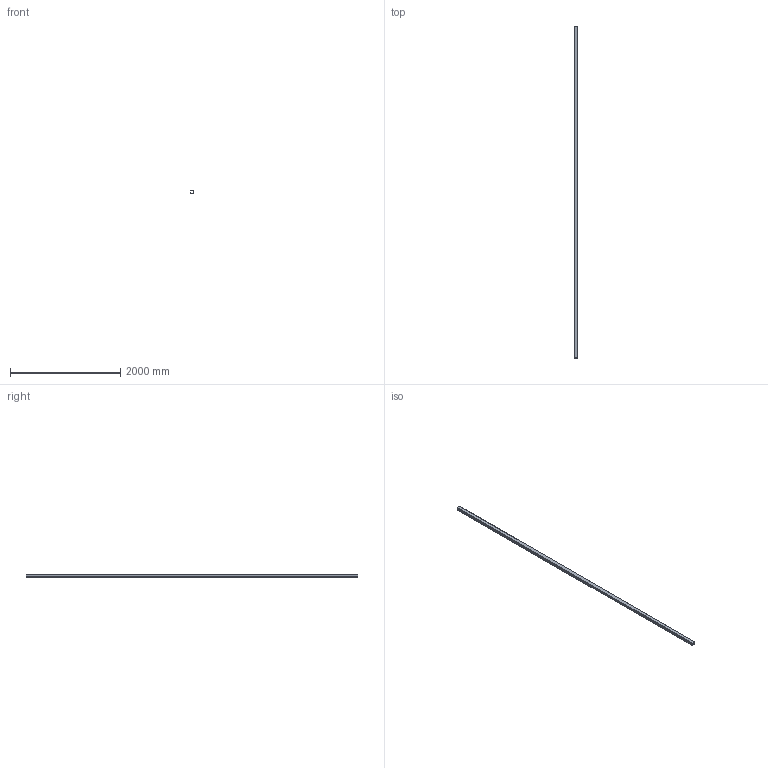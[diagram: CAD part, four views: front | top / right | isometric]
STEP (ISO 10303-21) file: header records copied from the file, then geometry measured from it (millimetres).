
FILE_DESCRIPTION( ( 'Unknown' ), '1' );
FILE_NAME( 'I:/Area_Tecnica/SolidEdge/Archivio/In_Lavoro/DaApprovare/stazione_15/STP/FAC_VD1406.053.stp', 'Unknown', ( 'Unknown' ), ( 'Unknown' ), 'PSStep 17.0.49', 'Unknown', ' ' );
FILE_SCHEMA( ( 'AUTOMOTIVE_DESIGN { 1 0 10303 214 1 1 1 1 }' ) );
Length unit declared in the file: millimetre
Products named in the file (1): 900 R50 P.53MZ_01-oa0
Bounding box: 70 x 6030 x 60 mm (x, y, z)
Volume: 4396486 mm3; surface area: 2563431.8 mm2
Topology: 1 solids, 1 shells, 1710 faces, 4434 edges, 2956 vertices
Faces by surface type: plane 1418, extrusion 240, cylinder 52
Entity records: 71368 total; most frequent: CARTESIAN_POINT 19811, ORIENTED_EDGE 8868, DIRECTION 5600, EDGE_CURVE 4434, VERTEX_POINT 2956, VECTOR 2450, B_SPLINE_CURVE_WITH_KNOTS 2360, LINE 2210
